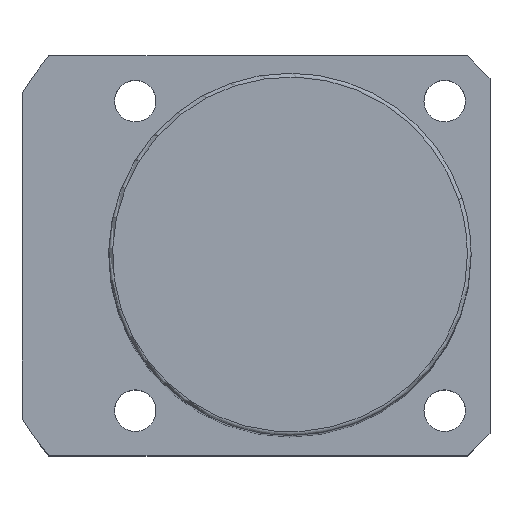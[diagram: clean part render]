
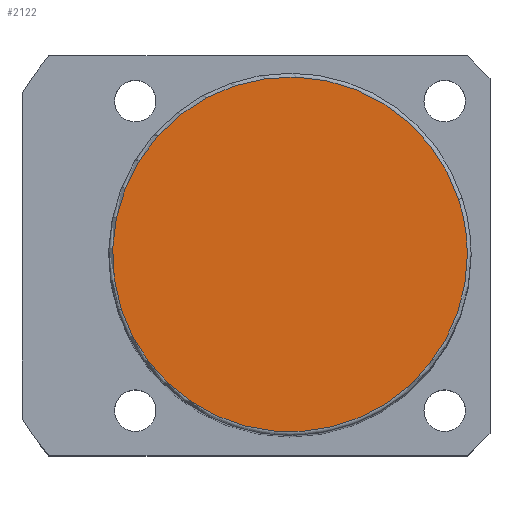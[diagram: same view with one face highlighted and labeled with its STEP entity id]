
A CAD part, top view. The second image highlights one B-rep face of the part: STEP entity #2122.
In plain terms, the highlighted planar face has unit normal (0, 0, 1).
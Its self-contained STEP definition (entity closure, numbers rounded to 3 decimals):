
#2055=CARTESIAN_POINT('',(22.35,7.262,124.0));
#2056=VERTEX_POINT('',#2055);
#2074=CARTESIAN_POINT('',(-22.35,-7.262,124.0));
#2075=VERTEX_POINT('',#2074);
#2083=CARTESIAN_POINT('',(0.0,0.0,124.0));
#2084=DIRECTION('',(0.0,0.0,1.0));
#2085=DIRECTION('',(1.0,0.0,0.0));
#2086=AXIS2_PLACEMENT_3D('',#2083,#2084,#2085);
#2087=CIRCLE('',#2086,23.5);
#2088=EDGE_CURVE('no 2151',#2056,#2075,#2087,.T.);
#2098=CARTESIAN_POINT('',(23.5,0.0,124.0));
#2099=VERTEX_POINT('',#2098);
#2100=CARTESIAN_POINT('',(0.0,0.0,124.0));
#2101=DIRECTION('',(0.0,0.0,1.0));
#2102=DIRECTION('',(1.0,0.0,0.0));
#2103=AXIS2_PLACEMENT_3D('',#2100,#2101,#2102);
#2104=CIRCLE('',#2103,23.5);
#2105=EDGE_CURVE('no 2160',#2099,#2056,#2104,.T.);
#2106=ORIENTED_EDGE('',*,*,#2105,.T.);
#2107=ORIENTED_EDGE('',*,*,#2088,.T.);
#2108=CARTESIAN_POINT('',(0.0,0.0,124.0));
#2109=DIRECTION('',(0.0,0.0,1.0));
#2110=DIRECTION('',(1.0,0.0,0.0));
#2111=AXIS2_PLACEMENT_3D('',#2108,#2109,#2110);
#2112=CIRCLE('',#2111,23.5);
#2113=EDGE_CURVE('no 2166',#2075,#2099,#2112,.T.);
#2114=ORIENTED_EDGE('',*,*,#2113,.T.);
#2115=EDGE_LOOP('',(#2106,#2107,#2114));
#2116=FACE_OUTER_BOUND('',#2115,.T.);
#2117=CARTESIAN_POINT('',(0.0,0.0,124.0));
#2118=DIRECTION('',(0.0,0.0,1.0));
#2119=DIRECTION('',(1.0,0.0,0.0));
#2120=AXIS2_PLACEMENT_3D('',#2117,#2118,#2119);
#2121=PLANE('',#2120);
#2122=ADVANCED_FACE('no 2153',(#2116),#2121,.T.);
